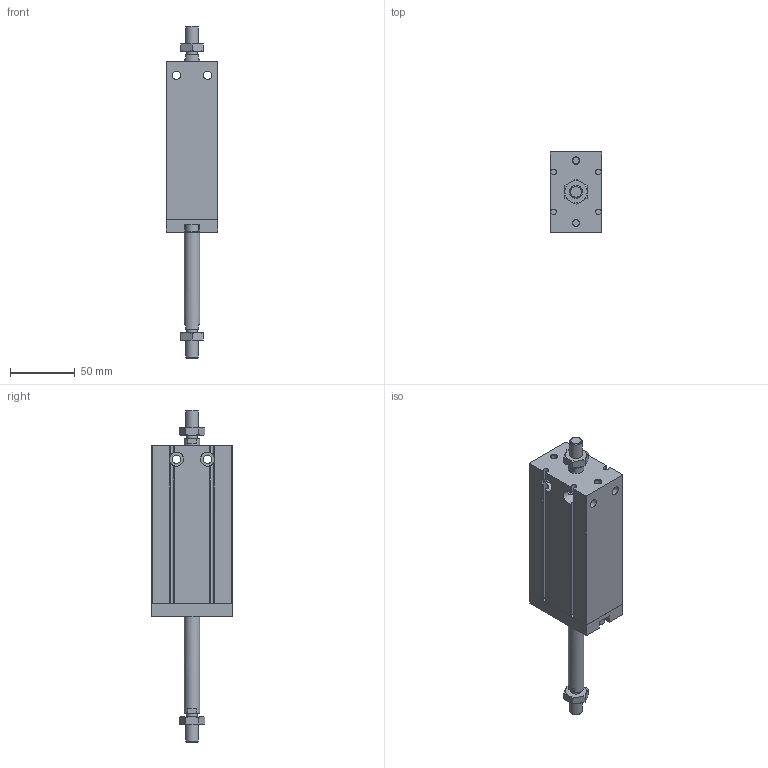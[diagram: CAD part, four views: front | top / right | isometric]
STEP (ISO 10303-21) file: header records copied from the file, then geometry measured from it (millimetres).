
FILE_DESCRIPTION( ( 'STEP AP214' ), '1' );
FILE_NAME( 'C:/Users/EMC02301/Desktop/EU图纸/EUD32X70-0-S.stp', '2026-08-12T01:08:23', ( 'License CC BY-ND 4.0' ), ( 'CADENAS' ), ' ', 'PARTsolutions', ' ' );
FILE_SCHEMA( ( 'AUTOMOTIVE_DESIGN { 1 0 10303 214 1 1 1 1 }' ) );
Length unit declared in the file: millimetre
Products named in the file (5): EUD32X70-0-S()(0); _EUD32X70-0-S()(0-dummy); _EUD32X70--S()(-body); _EUD32X70--S(0-rod); _EU_BOARD_32
Assembly tree (4 placements, depth 2):
  EUD32X70-0-S()(0)
    _EUD32X70-0-S()(0-dummy)
    _EUD32X70--S()(-body)
    _EUD32X70--S(0-rod)
    _EU_BOARD_32
Bounding box: 40 x 62 x 256 mm (x, y, z)
Volume: 276091.3 mm3; surface area: 70203.2 mm2
Topology: 3 solids, 3 shells, 219 faces, 537 edges, 347 vertices
Faces by surface type: plane 98, cylinder 83, cone 36, torus 2
Full cylindrical faces by diameter (mm): 4.917 x4, 6 x2, 6.6 x8, 8.466 x2, 9.728 x2, 10 x4, 11 x4, 12 x5, 32 x2
Entity records: 9004 total; most frequent: CARTESIAN_POINT 2261, DIRECTION 980, ORIENTED_EDGE 972, EDGE_CURVE 486, AXIS2_PLACEMENT_3D 382, VERTEX_POINT 338, EDGE_LOOP 304, FACE_OUTER_BOUND 254
